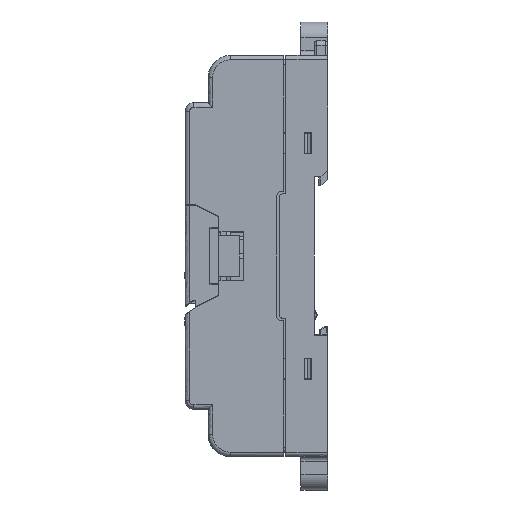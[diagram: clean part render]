
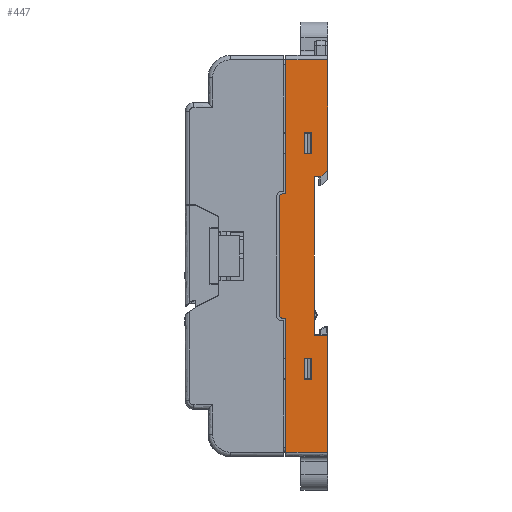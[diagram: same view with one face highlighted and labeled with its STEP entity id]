
A CAD part, left-side view. The second image highlights one B-rep face of the part: STEP entity #447.
In plain terms, the highlighted planar face has unit normal (-1, 0, 0).
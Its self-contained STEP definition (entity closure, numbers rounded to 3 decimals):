
#447=ADVANCED_FACE('',(#2933,#2285,#2286),#37318,.T.);
#2285=FACE_BOUND('',#5119,.T.);
#2286=FACE_BOUND('',#5120,.T.);
#2933=FACE_OUTER_BOUND('',#5118,.T.);
#5118=EDGE_LOOP('',(#9576,#9577,#9578,#9579,#9580,#9581,#9582,#9583,#9584,
#9585,#9586,#9587,#9588,#9589,#9590,#9591));
#5119=EDGE_LOOP('',(#9592,#9593,#9594,#9595));
#5120=EDGE_LOOP('',(#9596,#9597,#9598,#9599));
#9576=ORIENTED_EDGE('',*,*,#21379,.T.);
#9577=ORIENTED_EDGE('',*,*,#21320,.T.);
#9578=ORIENTED_EDGE('',*,*,#20820,.F.);
#9579=ORIENTED_EDGE('',*,*,#21319,.T.);
#9580=ORIENTED_EDGE('',*,*,#20294,.T.);
#9581=ORIENTED_EDGE('',*,*,#21457,.T.);
#9582=ORIENTED_EDGE('',*,*,#21318,.T.);
#9583=ORIENTED_EDGE('',*,*,#21130,.F.);
#9584=ORIENTED_EDGE('',*,*,#21317,.T.);
#9585=ORIENTED_EDGE('',*,*,#21400,.T.);
#9586=ORIENTED_EDGE('',*,*,#20261,.T.);
#9587=ORIENTED_EDGE('',*,*,#21316,.T.);
#9588=ORIENTED_EDGE('',*,*,#20717,.F.);
#9589=ORIENTED_EDGE('',*,*,#21315,.T.);
#9590=ORIENTED_EDGE('',*,*,#21393,.T.);
#9591=ORIENTED_EDGE('',*,*,#21314,.T.);
#9592=ORIENTED_EDGE('',*,*,#21324,.T.);
#9593=ORIENTED_EDGE('',*,*,#21323,.T.);
#9594=ORIENTED_EDGE('',*,*,#21322,.T.);
#9595=ORIENTED_EDGE('',*,*,#21321,.T.);
#9596=ORIENTED_EDGE('',*,*,#21313,.T.);
#9597=ORIENTED_EDGE('',*,*,#21303,.T.);
#9598=ORIENTED_EDGE('',*,*,#21325,.T.);
#9599=ORIENTED_EDGE('',*,*,#21312,.T.);
#20261=EDGE_CURVE('',#32753,#32754,#27292,.T.);
#20294=EDGE_CURVE('',#32803,#32804,#27325,.T.);
#20717=EDGE_CURVE('',#33191,#33190,#27739,.T.);
#20820=EDGE_CURVE('',#33296,#33295,#27842,.T.);
#21130=EDGE_CURVE('',#33517,#33516,#28140,.T.);
#21303=EDGE_CURVE('',#33612,#33613,#28253,.T.);
#21312=EDGE_CURVE('',#33616,#33615,#28262,.T.);
#21313=EDGE_CURVE('',#33615,#33612,#28263,.T.);
#21314=EDGE_CURVE('',#33619,#33617,#28264,.T.);
#21315=EDGE_CURVE('',#33191,#33620,#28265,.T.);
#21316=EDGE_CURVE('',#32754,#33190,#28266,.T.);
#21317=EDGE_CURVE('',#33517,#33621,#28267,.T.);
#21318=EDGE_CURVE('',#33622,#33516,#28268,.T.);
#21319=EDGE_CURVE('',#33296,#32803,#28269,.T.);
#21320=EDGE_CURVE('',#33618,#33295,#28270,.T.);
#21321=EDGE_CURVE('',#33623,#33624,#28271,.T.);
#21322=EDGE_CURVE('',#33625,#33623,#28272,.T.);
#21323=EDGE_CURVE('',#33626,#33625,#28273,.T.);
#21324=EDGE_CURVE('',#33624,#33626,#28274,.T.);
#21325=EDGE_CURVE('',#33613,#33616,#28275,.T.);
#21379=EDGE_CURVE('',#33617,#33618,#26444,.T.);
#21393=EDGE_CURVE('',#33620,#33619,#26450,.T.);
#21400=EDGE_CURVE('',#33621,#32753,#28320,.T.);
#21457=EDGE_CURVE('',#32804,#33622,#26457,.T.);
#26444=(
BOUNDED_CURVE()
B_SPLINE_CURVE(2,(#56756,#56757,#56758),.UNSPECIFIED.,.F.,.F.)
B_SPLINE_CURVE_WITH_KNOTS((3,3),(0.,1.571),.UNSPECIFIED.)
CURVE()
GEOMETRIC_REPRESENTATION_ITEM()
RATIONAL_B_SPLINE_CURVE((1.,0.707,1.))
REPRESENTATION_ITEM('')
);
#26450=(
BOUNDED_CURVE()
B_SPLINE_CURVE(2,(#56790,#56791,#56792),.UNSPECIFIED.,.F.,.F.)
B_SPLINE_CURVE_WITH_KNOTS((3,3),(0.,1.571),.UNSPECIFIED.)
CURVE()
GEOMETRIC_REPRESENTATION_ITEM()
RATIONAL_B_SPLINE_CURVE((1.,0.707,1.))
REPRESENTATION_ITEM('')
);
#26457=(
BOUNDED_CURVE()
B_SPLINE_CURVE(2,(#56964,#56965,#56966),.UNSPECIFIED.,.F.,.F.)
B_SPLINE_CURVE_WITH_KNOTS((3,3),(0.,0.314),.UNSPECIFIED.)
CURVE()
GEOMETRIC_REPRESENTATION_ITEM()
RATIONAL_B_SPLINE_CURVE((1.,0.707,1.))
REPRESENTATION_ITEM('')
);
#27292=B_SPLINE_CURVE_WITH_KNOTS('',1,(#54257,#54258),.UNSPECIFIED.,.F.,
 .F.,(2,2),(0.,24.75),.UNSPECIFIED.);
#27325=B_SPLINE_CURVE_WITH_KNOTS('',1,(#54361,#54362),.UNSPECIFIED.,.F.,
 .F.,(2,2),(0.,26.05),.UNSPECIFIED.);
#27739=B_SPLINE_CURVE_WITH_KNOTS('',1,(#55244,#55245),.UNSPECIFIED.,.F.,
 .F.,(2,2),(-30.,0.),.UNSPECIFIED.);
#27842=B_SPLINE_CURVE_WITH_KNOTS('',1,(#55450,#55451),.UNSPECIFIED.,.F.,
 .F.,(2,2),(-30.,0.),.UNSPECIFIED.);
#28140=B_SPLINE_CURVE_WITH_KNOTS('',1,(#56082,#56083),.UNSPECIFIED.,.F.,
 .F.,(2,2),(-35.5,0.),.UNSPECIFIED.);
#28253=B_SPLINE_CURVE_WITH_KNOTS('',1,(#56578,#56579),.UNSPECIFIED.,.F.,
 .F.,(2,2),(0.,1.65),.UNSPECIFIED.);
#28262=B_SPLINE_CURVE_WITH_KNOTS('',1,(#56596,#56597),.UNSPECIFIED.,.F.,
 .F.,(2,2),(0.,1.65),.UNSPECIFIED.);
#28263=B_SPLINE_CURVE_WITH_KNOTS('',1,(#56598,#56599),.UNSPECIFIED.,.F.,
 .F.,(2,2),(0.,4.75),.UNSPECIFIED.);
#28264=B_SPLINE_CURVE_WITH_KNOTS('',1,(#56600,#56601),.UNSPECIFIED.,.F.,
 .F.,(2,2),(-26.,0.),.UNSPECIFIED.);
#28265=B_SPLINE_CURVE_WITH_KNOTS('',1,(#56602,#56603),.UNSPECIFIED.,.F.,
 .F.,(2,2),(-0.5,0.),.UNSPECIFIED.);
#28266=B_SPLINE_CURVE_WITH_KNOTS('',1,(#56604,#56605),.UNSPECIFIED.,.F.,
 .F.,(2,2),(-9.4,0.),.UNSPECIFIED.);
#28267=B_SPLINE_CURVE_WITH_KNOTS('',1,(#56606,#56607),.UNSPECIFIED.,.F.,
 .F.,(2,2),(-1.5,0.),.UNSPECIFIED.);
#28268=B_SPLINE_CURVE_WITH_KNOTS('',1,(#56608,#56609),.UNSPECIFIED.,.F.,
 .F.,(2,2),(-2.8,0.),.UNSPECIFIED.);
#28269=B_SPLINE_CURVE_WITH_KNOTS('',1,(#56610,#56611),.UNSPECIFIED.,.F.,
 .F.,(2,2),(-9.4,0.),.UNSPECIFIED.);
#28270=B_SPLINE_CURVE_WITH_KNOTS('',1,(#56612,#56613),.UNSPECIFIED.,.F.,
 .F.,(2,2),(-0.5,0.),.UNSPECIFIED.);
#28271=B_SPLINE_CURVE_WITH_KNOTS('',1,(#56614,#56615),.UNSPECIFIED.,.F.,
 .F.,(2,2),(-4.75,0.),.UNSPECIFIED.);
#28272=B_SPLINE_CURVE_WITH_KNOTS('',1,(#56616,#56617),.UNSPECIFIED.,.F.,
 .F.,(2,2),(-1.65,0.),.UNSPECIFIED.);
#28273=B_SPLINE_CURVE_WITH_KNOTS('',1,(#56618,#56619),.UNSPECIFIED.,.F.,
 .F.,(2,2),(-4.75,0.),.UNSPECIFIED.);
#28274=B_SPLINE_CURVE_WITH_KNOTS('',1,(#56620,#56621),.UNSPECIFIED.,.F.,
 .F.,(2,2),(-1.65,0.),.UNSPECIFIED.);
#28275=B_SPLINE_CURVE_WITH_KNOTS('',1,(#56622,#56623),.UNSPECIFIED.,.F.,
 .F.,(2,2),(-4.75,0.),.UNSPECIFIED.);
#28320=B_SPLINE_CURVE_WITH_KNOTS('',1,(#56808,#56809),.UNSPECIFIED.,.F.,
 .F.,(2,2),(0.,2.121),.UNSPECIFIED.);
#32753=VERTEX_POINT('',#53245);
#32754=VERTEX_POINT('',#53246);
#32803=VERTEX_POINT('',#53295);
#32804=VERTEX_POINT('',#53296);
#33190=VERTEX_POINT('',#53682);
#33191=VERTEX_POINT('',#53683);
#33295=VERTEX_POINT('',#53787);
#33296=VERTEX_POINT('',#53788);
#33516=VERTEX_POINT('',#54008);
#33517=VERTEX_POINT('',#54009);
#33612=VERTEX_POINT('',#54104);
#33613=VERTEX_POINT('',#54105);
#33615=VERTEX_POINT('',#54107);
#33616=VERTEX_POINT('',#54108);
#33617=VERTEX_POINT('',#54109);
#33618=VERTEX_POINT('',#54110);
#33619=VERTEX_POINT('',#54111);
#33620=VERTEX_POINT('',#54112);
#33621=VERTEX_POINT('',#54113);
#33622=VERTEX_POINT('',#54114);
#33623=VERTEX_POINT('',#54115);
#33624=VERTEX_POINT('',#54116);
#33625=VERTEX_POINT('',#54117);
#33626=VERTEX_POINT('',#54118);
#37318=PLANE('',#39025);
#39025=AXIS2_PLACEMENT_3D('',#48967,#40629,$);
#40629=DIRECTION('',(-1.,0.,0.));
#48967=CARTESIAN_POINT('',(-45.,-1.257,-52.967));
#53245=CARTESIAN_POINT('',(-45.,0.,19.25));
#53246=CARTESIAN_POINT('',(-45.,0.,44.));
#53295=CARTESIAN_POINT('',(-45.,0.,-44.));
#53296=CARTESIAN_POINT('',(-45.,0.,-17.95));
#53682=CARTESIAN_POINT('',(-45.,9.4,44.));
#53683=CARTESIAN_POINT('',(-45.,9.4,14.));
#53787=CARTESIAN_POINT('',(-45.,9.4,-14.));
#53788=CARTESIAN_POINT('',(-45.,9.4,-44.));
#54008=CARTESIAN_POINT('',(-45.,3.,-17.75));
#54009=CARTESIAN_POINT('',(-45.,3.,17.75));
#54104=CARTESIAN_POINT('',(-45.,5.3,-22.925));
#54105=CARTESIAN_POINT('',(-45.,3.65,-22.925));
#54107=CARTESIAN_POINT('',(-45.,5.3,-27.675));
#54108=CARTESIAN_POINT('',(-45.,3.65,-27.675));
#54109=CARTESIAN_POINT('',(-45.,10.9,-13.));
#54110=CARTESIAN_POINT('',(-45.,9.9,-14.));
#54111=CARTESIAN_POINT('',(-45.,10.9,13.));
#54112=CARTESIAN_POINT('',(-45.,9.9,14.));
#54113=CARTESIAN_POINT('',(-45.,1.5,17.75));
#54114=CARTESIAN_POINT('',(-45.,0.2,-17.75));
#54115=CARTESIAN_POINT('',(-45.,5.3,22.925));
#54116=CARTESIAN_POINT('',(-45.,5.3,27.675));
#54117=CARTESIAN_POINT('',(-45.,3.65,22.925));
#54118=CARTESIAN_POINT('',(-45.,3.65,27.675));
#54257=CARTESIAN_POINT('',(-45.,0.,19.25));
#54258=CARTESIAN_POINT('',(-45.,0.,44.));
#54361=CARTESIAN_POINT('',(-45.,0.,-44.));
#54362=CARTESIAN_POINT('',(-45.,0.,-17.95));
#55244=CARTESIAN_POINT('',(-45.,9.4,14.));
#55245=CARTESIAN_POINT('',(-45.,9.4,44.));
#55450=CARTESIAN_POINT('',(-45.,9.4,-44.));
#55451=CARTESIAN_POINT('',(-45.,9.4,-14.));
#56082=CARTESIAN_POINT('',(-45.,3.,17.75));
#56083=CARTESIAN_POINT('',(-45.,3.,-17.75));
#56578=CARTESIAN_POINT('',(-45.,5.3,-22.925));
#56579=CARTESIAN_POINT('',(-45.,3.65,-22.925));
#56596=CARTESIAN_POINT('',(-45.,3.65,-27.675));
#56597=CARTESIAN_POINT('',(-45.,5.3,-27.675));
#56598=CARTESIAN_POINT('',(-45.,5.3,-27.675));
#56599=CARTESIAN_POINT('',(-45.,5.3,-22.925));
#56600=CARTESIAN_POINT('',(-45.,10.9,13.));
#56601=CARTESIAN_POINT('',(-45.,10.9,-13.));
#56602=CARTESIAN_POINT('',(-45.,9.4,14.));
#56603=CARTESIAN_POINT('',(-45.,9.9,14.));
#56604=CARTESIAN_POINT('',(-45.,0.,44.));
#56605=CARTESIAN_POINT('',(-45.,9.4,44.));
#56606=CARTESIAN_POINT('',(-45.,3.,17.75));
#56607=CARTESIAN_POINT('',(-45.,1.5,17.75));
#56608=CARTESIAN_POINT('',(-45.,0.2,-17.75));
#56609=CARTESIAN_POINT('',(-45.,3.,-17.75));
#56610=CARTESIAN_POINT('',(-45.,9.4,-44.));
#56611=CARTESIAN_POINT('',(-45.,0.,-44.));
#56612=CARTESIAN_POINT('',(-45.,9.9,-14.));
#56613=CARTESIAN_POINT('',(-45.,9.4,-14.));
#56614=CARTESIAN_POINT('',(-45.,5.3,22.925));
#56615=CARTESIAN_POINT('',(-45.,5.3,27.675));
#56616=CARTESIAN_POINT('',(-45.,3.65,22.925));
#56617=CARTESIAN_POINT('',(-45.,5.3,22.925));
#56618=CARTESIAN_POINT('',(-45.,3.65,27.675));
#56619=CARTESIAN_POINT('',(-45.,3.65,22.925));
#56620=CARTESIAN_POINT('',(-45.,5.3,27.675));
#56621=CARTESIAN_POINT('',(-45.,3.65,27.675));
#56622=CARTESIAN_POINT('',(-45.,3.65,-22.925));
#56623=CARTESIAN_POINT('',(-45.,3.65,-27.675));
#56756=CARTESIAN_POINT('',(-45.,10.9,-13.));
#56757=CARTESIAN_POINT('',(-45.,10.9,-14.));
#56758=CARTESIAN_POINT('',(-45.,9.9,-14.));
#56790=CARTESIAN_POINT('',(-45.,9.9,14.));
#56791=CARTESIAN_POINT('',(-45.,10.9,14.));
#56792=CARTESIAN_POINT('',(-45.,10.9,13.));
#56808=CARTESIAN_POINT('',(-45.,1.5,17.75));
#56809=CARTESIAN_POINT('',(-45.,0.,19.25));
#56964=CARTESIAN_POINT('',(-45.,0.,-17.95));
#56965=CARTESIAN_POINT('',(-45.,0.,-17.75));
#56966=CARTESIAN_POINT('',(-45.,0.2,-17.75));
